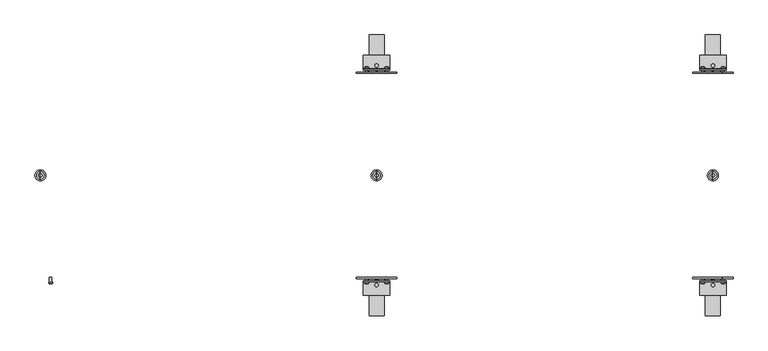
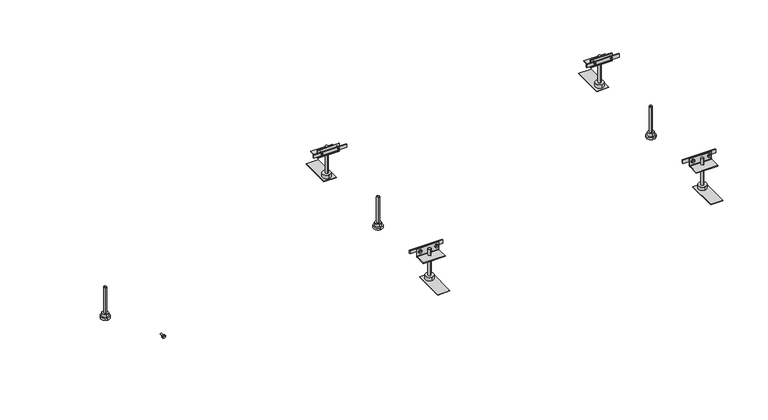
"""IFC4 building model written with IfcOpenShell, lengths in millimetres: proxy geometry."""

from ifc_helpers import new_model, si_unit, point, frame, frame_2d, origin, place, context, project, spatial, polyline, circle_curve, ellipse_curve, trimmed, segment, composite_curve, outline, extrude, source, transform, mapped, element, save
from ifc_brep_helpers import plane_surface, cylinder_surface, revolved_surface, advanced_brep


def electrical_fixtures_2455a1ed(model_context):
    return source(origin(), model_context, "Body", "SolidModel", [
        advanced_brep(
        [(1600.0, 13.0, -85.5), (1600.0, -13.0, -85.5), (1600.0, 0.0, -85.5), (1600.0, 13.0, -79.5), (1600.0, -13.0, -79.5), (1600.0, 9.0, -79.5), (1600.0, -9.0, -79.5), (1600.0, 9.0, -70.5), (1600.0, -9.0, -70.5), (1600.0, 3.954744, -70.5), (1600.0, -3.954744, -70.5), (1600.0, 3.954744, 9.5), (1600.0, -3.954744, 9.5), (1600.0, 0.0, 9.5)],
        [
            (0, 1, circle_curve(frame((1600.0, 0.0, -85.5), z_axis=(0.0, 0.0, -1.0), x_axis=(0.0, -1.0, 0.0)), 13.0)),
            (1, 2),
            (2, 0),
            (1, 0, circle_curve(frame((1600.0, 0.0, -85.5), z_axis=(0.0, 0.0, -1.0), x_axis=(0.0, -1.0, 0.0)), 13.0)),
            (3, 4, circle_curve(frame((1600.0, 0.0, -79.5), z_axis=(0.0, 0.0, -1.0), x_axis=(0.0, -1.0, 0.0)), 13.0)),
            (4, 1),
            (0, 3),
            (4, 3, circle_curve(frame((1600.0, 0.0, -79.5), z_axis=(0.0, 0.0, -1.0), x_axis=(0.0, -1.0, 0.0)), 13.0)),
            (5, 6, circle_curve(frame((1600.0, 0.0, -79.5), z_axis=(0.0, 0.0, -1.0), x_axis=(0.0, -1.0, 0.0)), 9.0)),
            (6, 4),
            (3, 5),
            (6, 5, circle_curve(frame((1600.0, 0.0, -79.5), z_axis=(0.0, 0.0, -1.0), x_axis=(0.0, -1.0, 0.0)), 9.0)),
            (7, 8, circle_curve(frame((1600.0, 0.0, -70.5), z_axis=(0.0, 0.0, -1.0), x_axis=(0.0, -1.0, 0.0)), 9.0)),
            (8, 6),
            (5, 7),
            (8, 7, circle_curve(frame((1600.0, 0.0, -70.5), z_axis=(0.0, 0.0, -1.0), x_axis=(0.0, -1.0, 0.0)), 9.0)),
            (9, 10, circle_curve(frame((1600.0, 0.0, -70.5), z_axis=(0.0, 0.0, -1.0), x_axis=(0.0, -1.0, 0.0)), 3.954744)),
            (10, 8),
            (7, 9),
            (10, 9, circle_curve(frame((1600.0, 0.0, -70.5), z_axis=(0.0, 0.0, -1.0), x_axis=(0.0, -1.0, 0.0)), 3.954744)),
            (11, 12, circle_curve(frame((1600.0, 0.0, 9.5), z_axis=(0.0, 0.0, -1.0), x_axis=(0.0, -1.0, 0.0)), 3.954744)),
            (12, 10),
            (9, 11),
            (12, 11, circle_curve(frame((1600.0, 0.0, 9.5), z_axis=(0.0, 0.0, -1.0), x_axis=(0.0, -1.0, 0.0)), 3.954744)),
            (13, 12),
            (11, 13),
        ],
        [
            plane_surface(frame((1600.0, 0.0, -85.5), z_axis=(0.0, 0.0, -1.0), x_axis=(0.0, -1.0, 0.0))),
            cylinder_surface(frame((1600.0, 0.0, 7.0), z_axis=(0.0, 0.0, 1.0), x_axis=(0.0, -1.0, 0.0)), 13.0),
            plane_surface(frame((1600.0, 0.0, -79.5), z_axis=(0.0, 0.0, 1.0), x_axis=(0.0, -1.0, 0.0))),
            cylinder_surface(frame((1600.0, 0.0, 7.0), z_axis=(0.0, 0.0, 1.0), x_axis=(0.0, -1.0, 0.0)), 9.0),
            plane_surface(frame((1600.0, 0.0, -70.5), z_axis=(0.0, 0.0, 1.0), x_axis=(0.0, -1.0, 0.0))),
            cylinder_surface(frame((1600.0, 0.0, 7.0), z_axis=(0.0, 0.0, 1.0), x_axis=(0.0, -1.0, 0.0)), 3.954744),
            plane_surface(frame((1600.0, 0.0, 9.5), z_axis=(0.0, 0.0, 1.0), x_axis=(0.0, -1.0, 0.0))),
        ],
        [
            (0, [[1, 2, 3]]),
            (0, [[4, -3, -2]]),
            (1, [[5, 6, -1, 7]]),
            (1, [[8, -7, -4, -6]]),
            (2, [[9, 10, -5, 11]]),
            (2, [[12, -11, -8, -10]]),
            (3, [[13, 14, -9, 15]]),
            (3, [[16, -15, -12, -14]]),
            (4, [[17, 18, -13, 19]]),
            (4, [[20, -19, -16, -18]]),
            (5, [[21, 22, -17, 23]]),
            (5, [[24, -23, -20, -22]]),
            (6, [[25, -21, 26]]),
            (6, [[-26, -24, -25]]),
        ],
    ),
        advanced_brep(
        [(1629.0575247, -256.6418922, 2.5), (1619.4769168, -256.6418922, 2.5), (1619.4769168, -254.7, 2.5), (1629.0575247, -254.7, 2.5), (1621.7042517, -254.7, 2.5), (1626.8301898, -254.7, 2.5), (1621.7042517, -242.7, 2.5), (1626.8301898, -242.7, 2.5), (1624.2672208, -242.7, 2.5), (1624.2672208, -258.3479209, 2.5)],
        [
            (0, 1, circle_curve(frame((1624.2672208, -256.6418922, 2.5), z_axis=(0.0, 1.0, 0.0), x_axis=(-1.0, 0.0, 0.0)), 4.790304)),
            (1, 2),
            (2, 3, circle_curve(frame((1624.2672208, -254.7, 2.5), z_axis=(0.0, -1.0, 0.0), x_axis=(-1.0, 0.0, 0.0)), 4.790304)),
            (3, 0),
            (1, 0, circle_curve(frame((1624.2672208, -256.6418922, 2.5), z_axis=(0.0, 1.0, 0.0), x_axis=(-1.0, 0.0, 0.0)), 4.790304)),
            (3, 2, circle_curve(frame((1624.2672208, -254.7, 2.5), z_axis=(0.0, -1.0, 0.0), x_axis=(-1.0, 0.0, 0.0)), 4.790304)),
            (2, 4),
            (4, 5, circle_curve(frame((1624.2672208, -254.7, 2.5), z_axis=(0.0, -1.0, 0.0), x_axis=(-1.0, 0.0, 0.0)), 2.562969)),
            (5, 3),
            (5, 4, circle_curve(frame((1624.2672208, -254.7, 2.5), z_axis=(0.0, -1.0, 0.0), x_axis=(-1.0, 0.0, 0.0)), 2.562969)),
            (4, 6),
            (6, 7, circle_curve(frame((1624.2672208, -242.7, 2.5), z_axis=(0.0, -1.0, 0.0), x_axis=(-1.0, 0.0, 0.0)), 2.562969)),
            (7, 5),
            (7, 6, circle_curve(frame((1624.2672208, -242.7, 2.5), z_axis=(0.0, -1.0, 0.0), x_axis=(-1.0, 0.0, 0.0)), 2.562969)),
            (6, 8),
            (8, 7),
            (9, 1, circle_curve(frame((1624.2353142, -250.8592246, 2.5), z_axis=(0.0, 0.0, -1.0), x_axis=(-1.0, 0.0, 0.0)), 7.4887643)),
            (0, 9, circle_curve(frame((1624.2991274, -250.8592246, 2.5), z_axis=(0.0, 0.0, -1.0), x_axis=(1.0, 0.0, 0.0)), 7.4887643)),
        ],
        [
            cylinder_surface(frame((1624.2672208, -254.2950786, 2.5), z_axis=(0.0, -1.0, 0.0), x_axis=(-1.0, 0.0, 0.0)), 4.790304),
            plane_surface(frame((1624.2672208, -254.7, 2.5), z_axis=(0.0, 1.0, 0.0), x_axis=(-1.0, 0.0, 0.0))),
            cylinder_surface(frame((1624.2672208, -254.2950786, 2.5), z_axis=(0.0, -1.0, 0.0), x_axis=(-1.0, 0.0, 0.0)), 2.562969),
            plane_surface(frame((1624.2672208, -242.7, 2.5), z_axis=(0.0, 1.0, 0.0), x_axis=(-1.0, 0.0, 0.0))),
            revolved_surface(trimmed(ellipse_curve(frame((1624.2353142, -250.8592246, 2.5), z_axis=(0.0, 0.0, 1.0), x_axis=(-1.0, 0.0, 0.0)), 7.4887643, 7.4887643), [point((1619.4769168, -256.6418922, 2.5))], [point((1624.2672208, -258.3479209, 2.5))], True, "CARTESIAN"), (1624.2672208, -254.2950786, 2.5), (0.0, -1.0, 0.0)),
        ],
        [
            (0, [[1, 2, 3, 4]]),
            (0, [[5, -4, 6, -2]]),
            (1, [[-3, 7, 8, 9]]),
            (1, [[-6, -9, 10, -7]]),
            (2, [[-8, 11, 12, 13]]),
            (2, [[-10, -13, 14, -11]]),
            (3, [[-12, 15, 16]]),
            (3, [[-14, -16, -15]]),
            (4, [[17, -1, 18]]),
            (4, [[-18, -5, -17]]),
        ],
    ),
        advanced_brep(
        [(1580.790304, -256.6418922, 2.5), (1571.209696, -256.6418922, 2.5), (1571.209696, -254.7, 2.5), (1580.790304, -254.7, 2.5), (1573.437031, -254.7, 2.5), (1578.562969, -254.7, 2.5), (1573.437031, -242.7, 2.5), (1578.562969, -242.7, 2.5), (1576.0, -242.7, 2.5), (1576.0, -258.3479209, 2.5)],
        [
            (0, 1, circle_curve(frame((1576.0, -256.6418922, 2.5), z_axis=(0.0, 1.0, 0.0), x_axis=(-1.0, 0.0, 0.0)), 4.790304)),
            (1, 2),
            (2, 3, circle_curve(frame((1576.0, -254.7, 2.5), z_axis=(0.0, -1.0, 0.0), x_axis=(-1.0, 0.0, 0.0)), 4.790304)),
            (3, 0),
            (1, 0, circle_curve(frame((1576.0, -256.6418922, 2.5), z_axis=(0.0, 1.0, 0.0), x_axis=(-1.0, 0.0, 0.0)), 4.790304)),
            (3, 2, circle_curve(frame((1576.0, -254.7, 2.5), z_axis=(0.0, -1.0, 0.0), x_axis=(-1.0, 0.0, 0.0)), 4.790304)),
            (2, 4),
            (4, 5, circle_curve(frame((1576.0, -254.7, 2.5), z_axis=(0.0, -1.0, 0.0), x_axis=(-1.0, 0.0, 0.0)), 2.562969)),
            (5, 3),
            (5, 4, circle_curve(frame((1576.0, -254.7, 2.5), z_axis=(0.0, -1.0, 0.0), x_axis=(-1.0, 0.0, 0.0)), 2.562969)),
            (4, 6),
            (6, 7, circle_curve(frame((1576.0, -242.7, 2.5), z_axis=(0.0, -1.0, 0.0), x_axis=(-1.0, 0.0, 0.0)), 2.562969)),
            (7, 5),
            (7, 6, circle_curve(frame((1576.0, -242.7, 2.5), z_axis=(0.0, -1.0, 0.0), x_axis=(-1.0, 0.0, 0.0)), 2.562969)),
            (6, 8),
            (8, 7),
            (9, 1, circle_curve(frame((1575.9680934, -250.8592246, 2.5), z_axis=(0.0, 0.0, -1.0), x_axis=(-1.0, 0.0, 0.0)), 7.4887643)),
            (0, 9, circle_curve(frame((1576.0319066, -250.8592246, 2.5), z_axis=(0.0, 0.0, -1.0), x_axis=(1.0, 0.0, 0.0)), 7.4887643)),
        ],
        [
            cylinder_surface(frame((1576.0, -254.2950786, 2.5), z_axis=(0.0, -1.0, 0.0), x_axis=(-1.0, 0.0, 0.0)), 4.790304),
            plane_surface(frame((1576.0, -254.7, 2.5), z_axis=(0.0, 1.0, 0.0), x_axis=(-1.0, 0.0, 0.0))),
            cylinder_surface(frame((1576.0, -254.2950786, 2.5), z_axis=(0.0, -1.0, 0.0), x_axis=(-1.0, 0.0, 0.0)), 2.562969),
            plane_surface(frame((1576.0, -242.7, 2.5), z_axis=(0.0, 1.0, 0.0), x_axis=(-1.0, 0.0, 0.0))),
            revolved_surface(trimmed(ellipse_curve(frame((1575.9680934, -250.8592246, 2.5), z_axis=(0.0, 0.0, 1.0), x_axis=(-1.0, 0.0, 0.0)), 7.4887643, 7.4887643), [point((1571.209696, -256.6418922, 2.5))], [point((1576.0, -258.3479209, 2.5))], True, "CARTESIAN"), (1576.0, -254.2950786, 2.5), (0.0, -1.0, 0.0)),
        ],
        [
            (0, [[1, 2, 3, 4]]),
            (0, [[5, -4, 6, -2]]),
            (1, [[-3, 7, 8, 9]]),
            (1, [[-6, -9, 10, -7]]),
            (2, [[-8, 11, 12, 13]]),
            (2, [[-10, -13, 14, -11]]),
            (3, [[-12, 15, 16]]),
            (3, [[-14, -16, -15]]),
            (4, [[17, -1, 18]]),
            (4, [[-18, -5, -17]]),
        ],
    ),
        advanced_brep(
        [(1629.0575247, 254.7, 2.5), (1619.4769168, 254.7, 2.5), (1619.4769168, 256.6418922, 2.5), (1629.0575247, 256.6418922, 2.5), (1626.8301898, 254.7, 2.5), (1621.7042517, 254.7, 2.5), (1626.8301898, 242.7, 2.5), (1621.7042517, 242.7, 2.5), (1624.2672208, 242.7, 2.5), (1624.2672208, 258.3479209, 2.5)],
        [
            (0, 1, circle_curve(frame((1624.2672208, 254.7, 2.5), z_axis=(0.0, 1.0, 0.0), x_axis=(-1.0, 0.0, 0.0)), 4.790304)),
            (1, 2),
            (2, 3, circle_curve(frame((1624.2672208, 256.6418922, 2.5), z_axis=(0.0, -1.0, 0.0), x_axis=(-1.0, 0.0, 0.0)), 4.790304)),
            (3, 0),
            (1, 0, circle_curve(frame((1624.2672208, 254.7, 2.5), z_axis=(0.0, 1.0, 0.0), x_axis=(-1.0, 0.0, 0.0)), 4.790304)),
            (3, 2, circle_curve(frame((1624.2672208, 256.6418922, 2.5), z_axis=(0.0, -1.0, 0.0), x_axis=(-1.0, 0.0, 0.0)), 4.790304)),
            (4, 5, circle_curve(frame((1624.2672208, 254.7, 2.5), z_axis=(0.0, 1.0, 0.0), x_axis=(-1.0, 0.0, 0.0)), 2.562969)),
            (5, 1),
            (0, 4),
            (5, 4, circle_curve(frame((1624.2672208, 254.7, 2.5), z_axis=(0.0, 1.0, 0.0), x_axis=(-1.0, 0.0, 0.0)), 2.562969)),
            (6, 7, circle_curve(frame((1624.2672208, 242.7, 2.5), z_axis=(0.0, 1.0, 0.0), x_axis=(-1.0, 0.0, 0.0)), 2.562969)),
            (7, 5),
            (4, 6),
            (7, 6, circle_curve(frame((1624.2672208, 242.7, 2.5), z_axis=(0.0, 1.0, 0.0), x_axis=(-1.0, 0.0, 0.0)), 2.562969)),
            (8, 7),
            (6, 8),
            (2, 9, circle_curve(frame((1624.2353142, 250.8592246, 2.5), z_axis=(0.0, 0.0, -1.0), x_axis=(-1.0, 0.0, 0.0)), 7.4887643)),
            (9, 3, circle_curve(frame((1624.2991274, 250.8592246, 2.5), z_axis=(0.0, 0.0, -1.0), x_axis=(1.0, 0.0, 0.0)), 7.4887643)),
        ],
        [
            cylinder_surface(frame((1624.2672208, 254.2950786, 2.5), z_axis=(0.0, -1.0, 0.0), x_axis=(-1.0, 0.0, 0.0)), 4.790304),
            plane_surface(frame((1624.2672208, 254.7, 2.5), z_axis=(0.0, -1.0, 0.0), x_axis=(-1.0, 0.0, 0.0))),
            cylinder_surface(frame((1624.2672208, 254.2950786, 2.5), z_axis=(0.0, -1.0, 0.0), x_axis=(-1.0, 0.0, 0.0)), 2.562969),
            plane_surface(frame((1624.2672208, 242.7, 2.5), z_axis=(0.0, -1.0, 0.0), x_axis=(-1.0, 0.0, 0.0))),
            revolved_surface(trimmed(ellipse_curve(frame((1624.2353142, 250.8592246, 2.5), z_axis=(0.0, 0.0, 1.0), x_axis=(-1.0, 0.0, 0.0)), 7.4887643, 7.4887643), [point((1624.2672208, 258.3479209, 2.5))], [point((1619.4769168, 256.6418922, 2.5))], True, "CARTESIAN"), (1624.2672208, 254.2950786, 2.5), (0.0, -1.0, 0.0)),
        ],
        [
            (0, [[1, 2, 3, 4]]),
            (0, [[5, -4, 6, -2]]),
            (1, [[7, 8, -1, 9]]),
            (1, [[10, -9, -5, -8]]),
            (2, [[11, 12, -7, 13]]),
            (2, [[14, -13, -10, -12]]),
            (3, [[15, -11, 16]]),
            (3, [[-16, -14, -15]]),
            (4, [[-3, 17, 18]]),
            (4, [[-6, -18, -17]]),
        ],
    ),
        advanced_brep(
        [(1580.790304, 254.7, 2.5), (1571.209696, 254.7, 2.5), (1571.209696, 256.6418922, 2.5), (1580.790304, 256.6418922, 2.5), (1578.562969, 254.7, 2.5), (1573.437031, 254.7, 2.5), (1578.562969, 242.7, 2.5), (1573.437031, 242.7, 2.5), (1576.0, 242.7, 2.5), (1576.0, 258.3479209, 2.5)],
        [
            (0, 1, circle_curve(frame((1576.0, 254.7, 2.5), z_axis=(0.0, 1.0, 0.0), x_axis=(-1.0, 0.0, 0.0)), 4.790304)),
            (1, 2),
            (2, 3, circle_curve(frame((1576.0, 256.6418922, 2.5), z_axis=(0.0, -1.0, 0.0), x_axis=(-1.0, 0.0, 0.0)), 4.790304)),
            (3, 0),
            (1, 0, circle_curve(frame((1576.0, 254.7, 2.5), z_axis=(0.0, 1.0, 0.0), x_axis=(-1.0, 0.0, 0.0)), 4.790304)),
            (3, 2, circle_curve(frame((1576.0, 256.6418922, 2.5), z_axis=(0.0, -1.0, 0.0), x_axis=(-1.0, 0.0, 0.0)), 4.790304)),
            (4, 5, circle_curve(frame((1576.0, 254.7, 2.5), z_axis=(0.0, 1.0, 0.0), x_axis=(-1.0, 0.0, 0.0)), 2.562969)),
            (5, 1),
            (0, 4),
            (5, 4, circle_curve(frame((1576.0, 254.7, 2.5), z_axis=(0.0, 1.0, 0.0), x_axis=(-1.0, 0.0, 0.0)), 2.562969)),
            (6, 7, circle_curve(frame((1576.0, 242.7, 2.5), z_axis=(0.0, 1.0, 0.0), x_axis=(-1.0, 0.0, 0.0)), 2.562969)),
            (7, 5),
            (4, 6),
            (7, 6, circle_curve(frame((1576.0, 242.7, 2.5), z_axis=(0.0, 1.0, 0.0), x_axis=(-1.0, 0.0, 0.0)), 2.562969)),
            (8, 7),
            (6, 8),
            (2, 9, circle_curve(frame((1575.9680934, 250.8592246, 2.5), z_axis=(0.0, 0.0, -1.0), x_axis=(-1.0, 0.0, 0.0)), 7.4887643)),
            (9, 3, circle_curve(frame((1576.0319066, 250.8592246, 2.5), z_axis=(0.0, 0.0, -1.0), x_axis=(1.0, 0.0, 0.0)), 7.4887643)),
        ],
        [
            cylinder_surface(frame((1576.0, 254.2950786, 2.5), z_axis=(0.0, -1.0, 0.0), x_axis=(-1.0, 0.0, 0.0)), 4.790304),
            plane_surface(frame((1576.0, 254.7, 2.5), z_axis=(0.0, -1.0, 0.0), x_axis=(-1.0, 0.0, 0.0))),
            cylinder_surface(frame((1576.0, 254.2950786, 2.5), z_axis=(0.0, -1.0, 0.0), x_axis=(-1.0, 0.0, 0.0)), 2.562969),
            plane_surface(frame((1576.0, 242.7, 2.5), z_axis=(0.0, -1.0, 0.0), x_axis=(-1.0, 0.0, 0.0))),
            revolved_surface(trimmed(ellipse_curve(frame((1575.9680934, 250.8592246, 2.5), z_axis=(0.0, 0.0, 1.0), x_axis=(-1.0, 0.0, 0.0)), 7.4887643, 7.4887643), [point((1576.0, 258.3479209, 2.5))], [point((1571.209696, 256.6418922, 2.5))], True, "CARTESIAN"), (1576.0, 254.2950786, 2.5), (0.0, -1.0, 0.0)),
        ],
        [
            (0, [[1, 2, 3, 4]]),
            (0, [[5, -4, 6, -2]]),
            (1, [[7, 8, -1, 9]]),
            (1, [[10, -9, -5, -8]]),
            (2, [[11, 12, -7, 13]]),
            (2, [[14, -13, -10, -12]]),
            (3, [[15, -11, 16]]),
            (3, [[-16, -14, -15]]),
            (4, [[-3, 17, 18]]),
            (4, [[-6, -18, -17]]),
        ],
    ),
        extrude(outline(polyline([(1552.0, 242.7), (1552.0, 245.7), (1648.0, 245.7), (1648.0, 242.7), (1552.0, 242.7)])), frame((0.0, 0.0, -2.5), z_axis=(0.0, 0.0, 1.0), x_axis=(1.0, 0.0, 0.0)), (0.0, 0.0, 1.0), 10.0),
        extrude(outline(polyline([(1552.0, -245.7), (1552.0, -242.7), (1648.0, -242.7), (1648.0, -245.7), (1552.0, -245.7)])), frame((0.0, 0.0, -2.5), z_axis=(0.0, 0.0, 1.0), x_axis=(1.0, 0.0, 0.0)), (0.0, 0.0, 1.0), 10.0),
        extrude(outline(composite_curve([segment(polyline([(250.6, 10.9), (252.6, 10.9), (252.6, -11.1088822)]), True, "CONTINUOUS"), segment(trimmed(circle_curve(frame_2d((253.5911178, -11.1088822)), 0.9911178), [point((252.6, -11.1088822))], [point((253.5911178, -12.1))], True, "CARTESIAN"), True, "CONTINUOUS"), segment(polyline([(253.5911178, -12.1), (285.6, -12.1), (285.6, -14.1), (253.6002521, -14.1)]), True, "CONTINUOUS"), segment(trimmed(circle_curve(frame_2d((253.6002521, -11.0997479)), 3.0002521), [point((253.6002521, -14.1))], [point((250.6, -11.0997479))], False, "CARTESIAN"), True, "CONTINUOUS"), segment(polyline([(250.6, -11.0997479), (250.6, 10.9)]), True, "CONTINUOUS")], self_intersect=False)), frame((1568.3, 0.0, 0.0), z_axis=(1.0, 0.0, 0.0), x_axis=(0.0, 1.0, 0.0)), (0.0, 0.0, 1.0), 63.4),
        extrude(outline(composite_curve([segment(polyline([(-250.6, 10.9), (-250.6, -11.0997479)]), True, "CONTINUOUS"), segment(trimmed(circle_curve(frame_2d((-253.6002521, -11.0997479)), 3.0002521), [point((-250.6, -11.0997479))], [point((-253.6002521, -14.1))], False, "CARTESIAN"), True, "CONTINUOUS"), segment(polyline([(-253.6002521, -14.1), (-285.6, -14.1), (-285.6, -12.1), (-253.5911178, -12.1)]), True, "CONTINUOUS"), segment(trimmed(circle_curve(frame_2d((-253.5911178, -11.1088822)), 0.9911178), [point((-253.5911178, -12.1))], [point((-252.6, -11.1088822))], True, "CARTESIAN"), True, "CONTINUOUS"), segment(polyline([(-252.6, -11.1088822), (-252.6, 10.9), (-250.6, 10.9)]), True, "CONTINUOUS")], self_intersect=False)), frame((1568.3, 0.0, 0.0), z_axis=(1.0, 0.0, 0.0), x_axis=(0.0, 1.0, 0.0)), (0.0, 0.0, 1.0), 63.4),
        extrude(outline(composite_curve([segment(trimmed(circle_curve(frame_2d((1600.0, 261.1712378)), 3.9923162), [point((1600.0, 265.163554))], [point((1600.0, 257.1789216))], False, "CARTESIAN"), True, "CONTINUOUS"), segment(trimmed(circle_curve(frame_2d((1600.0, 261.1712378)), 3.9923162), [point((1600.0, 257.1789216))], [point((1600.0, 265.163554))], False, "CARTESIAN"), True, "CONTINUOUS")], self_intersect=False)), frame((0.0, 0.0, -74.8), z_axis=(0.0, 0.0, 1.0), x_axis=(1.0, 0.0, 0.0)), (0.0, 0.0, 1.0), 81.8),
        extrude(outline(composite_curve([segment(trimmed(circle_curve(frame_2d((1600.0, -261.0787011)), 3.991847), [point((1600.0, -257.0868541))], [point((1600.0, -265.0705482))], False, "CARTESIAN"), True, "CONTINUOUS"), segment(trimmed(circle_curve(frame_2d((1600.0, -261.0787011)), 3.991847), [point((1600.0, -265.0705482))], [point((1600.0, -257.0868541))], False, "CARTESIAN"), True, "CONTINUOUS")], self_intersect=False)), frame((0.0, 0.0, -74.8), z_axis=(0.0, 0.0, 1.0), x_axis=(1.0, 0.0, 0.0)), (0.0, 0.0, 1.0), 81.8),
        extrude(outline(composite_curve([segment(trimmed(circle_curve(frame_2d((1600.0, 261.1652527)), 12.0), [point((1600.0, 273.1652527))], [point((1600.0, 249.1652527))], False, "CARTESIAN"), True, "CONTINUOUS"), segment(trimmed(circle_curve(frame_2d((1600.0, 261.1652527)), 12.0), [point((1600.0, 249.1652527))], [point((1600.0, 273.1652527))], False, "CARTESIAN"), True, "CONTINUOUS")], self_intersect=False)), frame((0.0, 0.0, -85.5), z_axis=(0.0, 0.0, 1.0), x_axis=(1.0, 0.0, 0.0)), (0.0, 0.0, 1.0), 10.7),
        extrude(outline(composite_curve([segment(trimmed(circle_curve(frame_2d((1600.0, -261.112037)), 12.0), [point((1600.0, -249.112037))], [point((1600.0, -273.112037))], False, "CARTESIAN"), True, "CONTINUOUS"), segment(trimmed(circle_curve(frame_2d((1600.0, -261.112037)), 12.0), [point((1600.0, -273.112037))], [point((1600.0, -249.112037))], False, "CARTESIAN"), True, "CONTINUOUS")], self_intersect=False)), frame((0.0, 0.0, -85.5), z_axis=(0.0, 0.0, 1.0), x_axis=(1.0, 0.0, 0.0)), (0.0, 0.0, 1.0), 10.7),
        extrude(outline(polyline([(1618.0, 244.1), (1582.0, 244.1), (1582.0, 334.1), (1618.0, 334.1), (1618.0, 244.1)])), frame((0.0, 0.0, -87.0), z_axis=(0.0, 0.0, 1.0), x_axis=(1.0, 0.0, 0.0)), (0.0, 0.0, 1.0), 1.5),
        extrude(outline(polyline([(1618.0, -334.1), (1582.0, -334.1), (1582.0, -244.1), (1618.0, -244.1), (1618.0, -334.1)])), frame((0.0, 0.0, -87.0), z_axis=(0.0, 0.0, 1.0), x_axis=(1.0, 0.0, 0.0)), (0.0, 0.0, 1.0), 1.5),
        advanced_brep(
        [(800.0, 13.0, -85.5), (800.0, -13.0, -85.5), (800.0, 0.0, -85.5), (800.0, 13.0, -79.5), (800.0, -13.0, -79.5), (800.0, 9.0, -79.5), (800.0, -9.0, -79.5), (800.0, 9.0, -70.5), (800.0, -9.0, -70.5), (800.0, 3.954744, -70.5), (800.0, -3.954744, -70.5), (800.0, 3.954744, 9.5), (800.0, -3.954744, 9.5), (800.0, 0.0, 9.5)],
        [
            (0, 1, circle_curve(frame((800.0, 0.0, -85.5), z_axis=(0.0, 0.0, -1.0), x_axis=(0.0, -1.0, 0.0)), 13.0)),
            (1, 2),
            (2, 0),
            (1, 0, circle_curve(frame((800.0, 0.0, -85.5), z_axis=(0.0, 0.0, -1.0), x_axis=(0.0, -1.0, 0.0)), 13.0)),
            (3, 4, circle_curve(frame((800.0, 0.0, -79.5), z_axis=(0.0, 0.0, -1.0), x_axis=(0.0, -1.0, 0.0)), 13.0)),
            (4, 1),
            (0, 3),
            (4, 3, circle_curve(frame((800.0, 0.0, -79.5), z_axis=(0.0, 0.0, -1.0), x_axis=(0.0, -1.0, 0.0)), 13.0)),
            (5, 6, circle_curve(frame((800.0, 0.0, -79.5), z_axis=(0.0, 0.0, -1.0), x_axis=(0.0, -1.0, 0.0)), 9.0)),
            (6, 4),
            (3, 5),
            (6, 5, circle_curve(frame((800.0, 0.0, -79.5), z_axis=(0.0, 0.0, -1.0), x_axis=(0.0, -1.0, 0.0)), 9.0)),
            (7, 8, circle_curve(frame((800.0, 0.0, -70.5), z_axis=(0.0, 0.0, -1.0), x_axis=(0.0, -1.0, 0.0)), 9.0)),
            (8, 6),
            (5, 7),
            (8, 7, circle_curve(frame((800.0, 0.0, -70.5), z_axis=(0.0, 0.0, -1.0), x_axis=(0.0, -1.0, 0.0)), 9.0)),
            (9, 10, circle_curve(frame((800.0, 0.0, -70.5), z_axis=(0.0, 0.0, -1.0), x_axis=(0.0, -1.0, 0.0)), 3.954744)),
            (10, 8),
            (7, 9),
            (10, 9, circle_curve(frame((800.0, 0.0, -70.5), z_axis=(0.0, 0.0, -1.0), x_axis=(0.0, -1.0, 0.0)), 3.954744)),
            (11, 12, circle_curve(frame((800.0, 0.0, 9.5), z_axis=(0.0, 0.0, -1.0), x_axis=(0.0, -1.0, 0.0)), 3.954744)),
            (12, 10),
            (9, 11),
            (12, 11, circle_curve(frame((800.0, 0.0, 9.5), z_axis=(0.0, 0.0, -1.0), x_axis=(0.0, -1.0, 0.0)), 3.954744)),
            (13, 12),
            (11, 13),
        ],
        [
            plane_surface(frame((800.0, 0.0, -85.5), z_axis=(0.0, 0.0, -1.0), x_axis=(0.0, -1.0, 0.0))),
            cylinder_surface(frame((800.0, 0.0, 7.0), z_axis=(0.0, 0.0, 1.0), x_axis=(0.0, -1.0, 0.0)), 13.0),
            plane_surface(frame((800.0, 0.0, -79.5), z_axis=(0.0, 0.0, 1.0), x_axis=(0.0, -1.0, 0.0))),
            cylinder_surface(frame((800.0, 0.0, 7.0), z_axis=(0.0, 0.0, 1.0), x_axis=(0.0, -1.0, 0.0)), 9.0),
            plane_surface(frame((800.0, 0.0, -70.5), z_axis=(0.0, 0.0, 1.0), x_axis=(0.0, -1.0, 0.0))),
            cylinder_surface(frame((800.0, 0.0, 7.0), z_axis=(0.0, 0.0, 1.0), x_axis=(0.0, -1.0, 0.0)), 3.954744),
            plane_surface(frame((800.0, 0.0, 9.5), z_axis=(0.0, 0.0, 1.0), x_axis=(0.0, -1.0, 0.0))),
        ],
        [
            (0, [[1, 2, 3]]),
            (0, [[4, -3, -2]]),
            (1, [[5, 6, -1, 7]]),
            (1, [[8, -7, -4, -6]]),
            (2, [[9, 10, -5, 11]]),
            (2, [[12, -11, -8, -10]]),
            (3, [[13, 14, -9, 15]]),
            (3, [[16, -15, -12, -14]]),
            (4, [[17, 18, -13, 19]]),
            (4, [[20, -19, -16, -18]]),
            (5, [[21, 22, -17, 23]]),
            (5, [[24, -23, -20, -22]]),
            (6, [[25, -21, 26]]),
            (6, [[-26, -24, -25]]),
        ],
    ),
        advanced_brep(
        [(829.0575247, -256.6418922, 2.5), (819.4769168, -256.6418922, 2.5), (819.4769168, -254.7, 2.5), (829.0575247, -254.7, 2.5), (821.7042517, -254.7, 2.5), (826.8301898, -254.7, 2.5), (821.7042517, -242.7, 2.5), (826.8301898, -242.7, 2.5), (824.2672208, -242.7, 2.5), (824.2672208, -258.3479209, 2.5)],
        [
            (0, 1, circle_curve(frame((824.2672208, -256.6418922, 2.5), z_axis=(0.0, 1.0, 0.0), x_axis=(-1.0, 0.0, 0.0)), 4.790304)),
            (1, 2),
            (2, 3, circle_curve(frame((824.2672208, -254.7, 2.5), z_axis=(0.0, -1.0, 0.0), x_axis=(-1.0, 0.0, 0.0)), 4.790304)),
            (3, 0),
            (1, 0, circle_curve(frame((824.2672208, -256.6418922, 2.5), z_axis=(0.0, 1.0, 0.0), x_axis=(-1.0, 0.0, 0.0)), 4.790304)),
            (3, 2, circle_curve(frame((824.2672208, -254.7, 2.5), z_axis=(0.0, -1.0, 0.0), x_axis=(-1.0, 0.0, 0.0)), 4.790304)),
            (2, 4),
            (4, 5, circle_curve(frame((824.2672208, -254.7, 2.5), z_axis=(0.0, -1.0, 0.0), x_axis=(-1.0, 0.0, 0.0)), 2.562969)),
            (5, 3),
            (5, 4, circle_curve(frame((824.2672208, -254.7, 2.5), z_axis=(0.0, -1.0, 0.0), x_axis=(-1.0, 0.0, 0.0)), 2.562969)),
            (4, 6),
            (6, 7, circle_curve(frame((824.2672208, -242.7, 2.5), z_axis=(0.0, -1.0, 0.0), x_axis=(-1.0, 0.0, 0.0)), 2.562969)),
            (7, 5),
            (7, 6, circle_curve(frame((824.2672208, -242.7, 2.5), z_axis=(0.0, -1.0, 0.0), x_axis=(-1.0, 0.0, 0.0)), 2.562969)),
            (6, 8),
            (8, 7),
            (9, 1, circle_curve(frame((824.2353142, -250.8592246, 2.5), z_axis=(0.0, 0.0, -1.0), x_axis=(-1.0, 0.0, 0.0)), 7.4887643)),
            (0, 9, circle_curve(frame((824.2991274, -250.8592246, 2.5), z_axis=(0.0, 0.0, -1.0), x_axis=(1.0, 0.0, 0.0)), 7.4887643)),
        ],
        [
            cylinder_surface(frame((824.2672208, -254.2950786, 2.5), z_axis=(0.0, -1.0, 0.0), x_axis=(-1.0, 0.0, 0.0)), 4.790304),
            plane_surface(frame((824.2672208, -254.7, 2.5), z_axis=(0.0, 1.0, 0.0), x_axis=(-1.0, 0.0, 0.0))),
            cylinder_surface(frame((824.2672208, -254.2950786, 2.5), z_axis=(0.0, -1.0, 0.0), x_axis=(-1.0, 0.0, 0.0)), 2.562969),
            plane_surface(frame((824.2672208, -242.7, 2.5), z_axis=(0.0, 1.0, 0.0), x_axis=(-1.0, 0.0, 0.0))),
            revolved_surface(trimmed(ellipse_curve(frame((824.2353142, -250.8592246, 2.5), z_axis=(0.0, 0.0, 1.0), x_axis=(-1.0, 0.0, 0.0)), 7.4887643, 7.4887643), [point((819.4769168, -256.6418922, 2.5))], [point((824.2672208, -258.3479209, 2.5))], True, "CARTESIAN"), (824.2672208, -254.2950786, 2.5), (0.0, -1.0, 0.0)),
        ],
        [
            (0, [[1, 2, 3, 4]]),
            (0, [[5, -4, 6, -2]]),
            (1, [[-3, 7, 8, 9]]),
            (1, [[-6, -9, 10, -7]]),
            (2, [[-8, 11, 12, 13]]),
            (2, [[-10, -13, 14, -11]]),
            (3, [[-12, 15, 16]]),
            (3, [[-14, -16, -15]]),
            (4, [[17, -1, 18]]),
            (4, [[-18, -5, -17]]),
        ],
    ),
        advanced_brep(
        [(780.790304, -256.6418922, 2.5), (771.209696, -256.6418922, 2.5), (771.209696, -254.7, 2.5), (780.790304, -254.7, 2.5), (773.437031, -254.7, 2.5), (778.562969, -254.7, 2.5), (773.437031, -242.7, 2.5), (778.562969, -242.7, 2.5), (776.0, -242.7, 2.5), (776.0, -258.3479209, 2.5)],
        [
            (0, 1, circle_curve(frame((776.0, -256.6418922, 2.5), z_axis=(0.0, 1.0, 0.0), x_axis=(-1.0, 0.0, 0.0)), 4.790304)),
            (1, 2),
            (2, 3, circle_curve(frame((776.0, -254.7, 2.5), z_axis=(0.0, -1.0, 0.0), x_axis=(-1.0, 0.0, 0.0)), 4.790304)),
            (3, 0),
            (1, 0, circle_curve(frame((776.0, -256.6418922, 2.5), z_axis=(0.0, 1.0, 0.0), x_axis=(-1.0, 0.0, 0.0)), 4.790304)),
            (3, 2, circle_curve(frame((776.0, -254.7, 2.5), z_axis=(0.0, -1.0, 0.0), x_axis=(-1.0, 0.0, 0.0)), 4.790304)),
            (2, 4),
            (4, 5, circle_curve(frame((776.0, -254.7, 2.5), z_axis=(0.0, -1.0, 0.0), x_axis=(-1.0, 0.0, 0.0)), 2.562969)),
            (5, 3),
            (5, 4, circle_curve(frame((776.0, -254.7, 2.5), z_axis=(0.0, -1.0, 0.0), x_axis=(-1.0, 0.0, 0.0)), 2.562969)),
            (4, 6),
            (6, 7, circle_curve(frame((776.0, -242.7, 2.5), z_axis=(0.0, -1.0, 0.0), x_axis=(-1.0, 0.0, 0.0)), 2.562969)),
            (7, 5),
            (7, 6, circle_curve(frame((776.0, -242.7, 2.5), z_axis=(0.0, -1.0, 0.0), x_axis=(-1.0, 0.0, 0.0)), 2.562969)),
            (6, 8),
            (8, 7),
            (9, 1, circle_curve(frame((775.9680934, -250.8592246, 2.5), z_axis=(0.0, 0.0, -1.0), x_axis=(-1.0, 0.0, 0.0)), 7.4887643)),
            (0, 9, circle_curve(frame((776.0319066, -250.8592246, 2.5), z_axis=(0.0, 0.0, -1.0), x_axis=(1.0, 0.0, 0.0)), 7.4887643)),
        ],
        [
            cylinder_surface(frame((776.0, -254.2950786, 2.5), z_axis=(0.0, -1.0, 0.0), x_axis=(-1.0, 0.0, 0.0)), 4.790304),
            plane_surface(frame((776.0, -254.7, 2.5), z_axis=(0.0, 1.0, 0.0), x_axis=(-1.0, 0.0, 0.0))),
            cylinder_surface(frame((776.0, -254.2950786, 2.5), z_axis=(0.0, -1.0, 0.0), x_axis=(-1.0, 0.0, 0.0)), 2.562969),
            plane_surface(frame((776.0, -242.7, 2.5), z_axis=(0.0, 1.0, 0.0), x_axis=(-1.0, 0.0, 0.0))),
            revolved_surface(trimmed(ellipse_curve(frame((775.9680934, -250.8592246, 2.5), z_axis=(0.0, 0.0, 1.0), x_axis=(-1.0, 0.0, 0.0)), 7.4887643, 7.4887643), [point((771.209696, -256.6418922, 2.5))], [point((776.0, -258.3479209, 2.5))], True, "CARTESIAN"), (776.0, -254.2950786, 2.5), (0.0, -1.0, 0.0)),
        ],
        [
            (0, [[1, 2, 3, 4]]),
            (0, [[5, -4, 6, -2]]),
            (1, [[-3, 7, 8, 9]]),
            (1, [[-6, -9, 10, -7]]),
            (2, [[-8, 11, 12, 13]]),
            (2, [[-10, -13, 14, -11]]),
            (3, [[-12, 15, 16]]),
            (3, [[-14, -16, -15]]),
            (4, [[17, -1, 18]]),
            (4, [[-18, -5, -17]]),
        ],
    ),
        advanced_brep(
        [(829.0575247, 254.7, 2.5), (819.4769168, 254.7, 2.5), (819.4769168, 256.6418922, 2.5), (829.0575247, 256.6418922, 2.5), (826.8301898, 254.7, 2.5), (821.7042517, 254.7, 2.5), (826.8301898, 242.7, 2.5), (821.7042517, 242.7, 2.5), (824.2672208, 242.7, 2.5), (824.2672208, 258.3479209, 2.5)],
        [
            (0, 1, circle_curve(frame((824.2672208, 254.7, 2.5), z_axis=(0.0, 1.0, 0.0), x_axis=(-1.0, 0.0, 0.0)), 4.790304)),
            (1, 2),
            (2, 3, circle_curve(frame((824.2672208, 256.6418922, 2.5), z_axis=(0.0, -1.0, 0.0), x_axis=(-1.0, 0.0, 0.0)), 4.790304)),
            (3, 0),
            (1, 0, circle_curve(frame((824.2672208, 254.7, 2.5), z_axis=(0.0, 1.0, 0.0), x_axis=(-1.0, 0.0, 0.0)), 4.790304)),
            (3, 2, circle_curve(frame((824.2672208, 256.6418922, 2.5), z_axis=(0.0, -1.0, 0.0), x_axis=(-1.0, 0.0, 0.0)), 4.790304)),
            (4, 5, circle_curve(frame((824.2672208, 254.7, 2.5), z_axis=(0.0, 1.0, 0.0), x_axis=(-1.0, 0.0, 0.0)), 2.562969)),
            (5, 1),
            (0, 4),
            (5, 4, circle_curve(frame((824.2672208, 254.7, 2.5), z_axis=(0.0, 1.0, 0.0), x_axis=(-1.0, 0.0, 0.0)), 2.562969)),
            (6, 7, circle_curve(frame((824.2672208, 242.7, 2.5), z_axis=(0.0, 1.0, 0.0), x_axis=(-1.0, 0.0, 0.0)), 2.562969)),
            (7, 5),
            (4, 6),
            (7, 6, circle_curve(frame((824.2672208, 242.7, 2.5), z_axis=(0.0, 1.0, 0.0), x_axis=(-1.0, 0.0, 0.0)), 2.562969)),
            (8, 7),
            (6, 8),
            (2, 9, circle_curve(frame((824.2353142, 250.8592246, 2.5), z_axis=(0.0, 0.0, -1.0), x_axis=(-1.0, 0.0, 0.0)), 7.4887643)),
            (9, 3, circle_curve(frame((824.2991274, 250.8592246, 2.5), z_axis=(0.0, 0.0, -1.0), x_axis=(1.0, 0.0, 0.0)), 7.4887643)),
        ],
        [
            cylinder_surface(frame((824.2672208, 254.2950786, 2.5), z_axis=(0.0, -1.0, 0.0), x_axis=(-1.0, 0.0, 0.0)), 4.790304),
            plane_surface(frame((824.2672208, 254.7, 2.5), z_axis=(0.0, -1.0, 0.0), x_axis=(-1.0, 0.0, 0.0))),
            cylinder_surface(frame((824.2672208, 254.2950786, 2.5), z_axis=(0.0, -1.0, 0.0), x_axis=(-1.0, 0.0, 0.0)), 2.562969),
            plane_surface(frame((824.2672208, 242.7, 2.5), z_axis=(0.0, -1.0, 0.0), x_axis=(-1.0, 0.0, 0.0))),
            revolved_surface(trimmed(ellipse_curve(frame((824.2353142, 250.8592246, 2.5), z_axis=(0.0, 0.0, 1.0), x_axis=(-1.0, 0.0, 0.0)), 7.4887643, 7.4887643), [point((824.2672208, 258.3479209, 2.5))], [point((819.4769168, 256.6418922, 2.5))], True, "CARTESIAN"), (824.2672208, 254.2950786, 2.5), (0.0, -1.0, 0.0)),
        ],
        [
            (0, [[1, 2, 3, 4]]),
            (0, [[5, -4, 6, -2]]),
            (1, [[7, 8, -1, 9]]),
            (1, [[10, -9, -5, -8]]),
            (2, [[11, 12, -7, 13]]),
            (2, [[14, -13, -10, -12]]),
            (3, [[15, -11, 16]]),
            (3, [[-16, -14, -15]]),
            (4, [[-3, 17, 18]]),
            (4, [[-6, -18, -17]]),
        ],
    ),
        advanced_brep(
        [(780.790304, 254.7, 2.5), (771.209696, 254.7, 2.5), (771.209696, 256.6418922, 2.5), (780.790304, 256.6418922, 2.5), (778.562969, 254.7, 2.5), (773.437031, 254.7, 2.5), (778.562969, 242.7, 2.5), (773.437031, 242.7, 2.5), (776.0, 242.7, 2.5), (776.0, 258.3479209, 2.5)],
        [
            (0, 1, circle_curve(frame((776.0, 254.7, 2.5), z_axis=(0.0, 1.0, 0.0), x_axis=(-1.0, 0.0, 0.0)), 4.790304)),
            (1, 2),
            (2, 3, circle_curve(frame((776.0, 256.6418922, 2.5), z_axis=(0.0, -1.0, 0.0), x_axis=(-1.0, 0.0, 0.0)), 4.790304)),
            (3, 0),
            (1, 0, circle_curve(frame((776.0, 254.7, 2.5), z_axis=(0.0, 1.0, 0.0), x_axis=(-1.0, 0.0, 0.0)), 4.790304)),
            (3, 2, circle_curve(frame((776.0, 256.6418922, 2.5), z_axis=(0.0, -1.0, 0.0), x_axis=(-1.0, 0.0, 0.0)), 4.790304)),
            (4, 5, circle_curve(frame((776.0, 254.7, 2.5), z_axis=(0.0, 1.0, 0.0), x_axis=(-1.0, 0.0, 0.0)), 2.562969)),
            (5, 1),
            (0, 4),
            (5, 4, circle_curve(frame((776.0, 254.7, 2.5), z_axis=(0.0, 1.0, 0.0), x_axis=(-1.0, 0.0, 0.0)), 2.562969)),
            (6, 7, circle_curve(frame((776.0, 242.7, 2.5), z_axis=(0.0, 1.0, 0.0), x_axis=(-1.0, 0.0, 0.0)), 2.562969)),
            (7, 5),
            (4, 6),
            (7, 6, circle_curve(frame((776.0, 242.7, 2.5), z_axis=(0.0, 1.0, 0.0), x_axis=(-1.0, 0.0, 0.0)), 2.562969)),
            (8, 7),
            (6, 8),
            (2, 9, circle_curve(frame((775.9680934, 250.8592246, 2.5), z_axis=(0.0, 0.0, -1.0), x_axis=(-1.0, 0.0, 0.0)), 7.4887643)),
            (9, 3, circle_curve(frame((776.0319066, 250.8592246, 2.5), z_axis=(0.0, 0.0, -1.0), x_axis=(1.0, 0.0, 0.0)), 7.4887643)),
        ],
        [
            cylinder_surface(frame((776.0, 254.2950786, 2.5), z_axis=(0.0, -1.0, 0.0), x_axis=(-1.0, 0.0, 0.0)), 4.790304),
            plane_surface(frame((776.0, 254.7, 2.5), z_axis=(0.0, -1.0, 0.0), x_axis=(-1.0, 0.0, 0.0))),
            cylinder_surface(frame((776.0, 254.2950786, 2.5), z_axis=(0.0, -1.0, 0.0), x_axis=(-1.0, 0.0, 0.0)), 2.562969),
            plane_surface(frame((776.0, 242.7, 2.5), z_axis=(0.0, -1.0, 0.0), x_axis=(-1.0, 0.0, 0.0))),
            revolved_surface(trimmed(ellipse_curve(frame((775.9680934, 250.8592246, 2.5), z_axis=(0.0, 0.0, 1.0), x_axis=(-1.0, 0.0, 0.0)), 7.4887643, 7.4887643), [point((776.0, 258.3479209, 2.5))], [point((771.209696, 256.6418922, 2.5))], True, "CARTESIAN"), (776.0, 254.2950786, 2.5), (0.0, -1.0, 0.0)),
        ],
        [
            (0, [[1, 2, 3, 4]]),
            (0, [[5, -4, 6, -2]]),
            (1, [[7, 8, -1, 9]]),
            (1, [[10, -9, -5, -8]]),
            (2, [[11, 12, -7, 13]]),
            (2, [[14, -13, -10, -12]]),
            (3, [[15, -11, 16]]),
            (3, [[-16, -14, -15]]),
            (4, [[-3, 17, 18]]),
            (4, [[-6, -18, -17]]),
        ],
    ),
        extrude(outline(polyline([(752.0, 242.7), (752.0, 245.7), (848.0, 245.7), (848.0, 242.7), (752.0, 242.7)])), frame((0.0, 0.0, -2.5), z_axis=(0.0, 0.0, 1.0), x_axis=(1.0, 0.0, 0.0)), (0.0, 0.0, 1.0), 10.0),
        extrude(outline(polyline([(752.0, -245.7), (752.0, -242.7), (848.0, -242.7), (848.0, -245.7), (752.0, -245.7)])), frame((0.0, 0.0, -2.5), z_axis=(0.0, 0.0, 1.0), x_axis=(1.0, 0.0, 0.0)), (0.0, 0.0, 1.0), 10.0),
        extrude(outline(composite_curve([segment(polyline([(250.6, 10.9), (252.6, 10.9), (252.6, -11.1088822)]), True, "CONTINUOUS"), segment(trimmed(circle_curve(frame_2d((253.5911178, -11.1088822)), 0.9911178), [point((252.6, -11.1088822))], [point((253.5911178, -12.1))], True, "CARTESIAN"), True, "CONTINUOUS"), segment(polyline([(253.5911178, -12.1), (285.6, -12.1), (285.6, -14.1), (253.6002521, -14.1)]), True, "CONTINUOUS"), segment(trimmed(circle_curve(frame_2d((253.6002521, -11.0997479)), 3.0002521), [point((253.6002521, -14.1))], [point((250.6, -11.0997479))], False, "CARTESIAN"), True, "CONTINUOUS"), segment(polyline([(250.6, -11.0997479), (250.6, 10.9)]), True, "CONTINUOUS")], self_intersect=False)), frame((768.3, 0.0, 0.0), z_axis=(1.0, 0.0, 0.0), x_axis=(0.0, 1.0, 0.0)), (0.0, 0.0, 1.0), 63.4),
        extrude(outline(composite_curve([segment(polyline([(-250.6, 10.9), (-250.6, -11.0997479)]), True, "CONTINUOUS"), segment(trimmed(circle_curve(frame_2d((-253.6002521, -11.0997479)), 3.0002521), [point((-250.6, -11.0997479))], [point((-253.6002521, -14.1))], False, "CARTESIAN"), True, "CONTINUOUS"), segment(polyline([(-253.6002521, -14.1), (-285.6, -14.1), (-285.6, -12.1), (-253.5911178, -12.1)]), True, "CONTINUOUS"), segment(trimmed(circle_curve(frame_2d((-253.5911178, -11.1088822)), 0.9911178), [point((-253.5911178, -12.1))], [point((-252.6, -11.1088822))], True, "CARTESIAN"), True, "CONTINUOUS"), segment(polyline([(-252.6, -11.1088822), (-252.6, 10.9), (-250.6, 10.9)]), True, "CONTINUOUS")], self_intersect=False)), frame((768.3, 0.0, 0.0), z_axis=(1.0, 0.0, 0.0), x_axis=(0.0, 1.0, 0.0)), (0.0, 0.0, 1.0), 63.4),
        extrude(outline(composite_curve([segment(trimmed(circle_curve(frame_2d((800.0, 261.1712378)), 3.9923162), [point((800.0, 265.163554))], [point((800.0, 257.1789216))], False, "CARTESIAN"), True, "CONTINUOUS"), segment(trimmed(circle_curve(frame_2d((800.0, 261.1712378)), 3.9923162), [point((800.0, 257.1789216))], [point((800.0, 265.163554))], False, "CARTESIAN"), True, "CONTINUOUS")], self_intersect=False)), frame((0.0, 0.0, -74.8), z_axis=(0.0, 0.0, 1.0), x_axis=(1.0, 0.0, 0.0)), (0.0, 0.0, 1.0), 81.8),
        extrude(outline(composite_curve([segment(trimmed(circle_curve(frame_2d((800.0, -261.0787011)), 3.991847), [point((800.0, -257.0868541))], [point((800.0, -265.0705482))], False, "CARTESIAN"), True, "CONTINUOUS"), segment(trimmed(circle_curve(frame_2d((800.0, -261.0787011)), 3.991847), [point((800.0, -265.0705482))], [point((800.0, -257.0868541))], False, "CARTESIAN"), True, "CONTINUOUS")], self_intersect=False)), frame((0.0, 0.0, -74.8), z_axis=(0.0, 0.0, 1.0), x_axis=(1.0, 0.0, 0.0)), (0.0, 0.0, 1.0), 81.8),
        extrude(outline(composite_curve([segment(trimmed(circle_curve(frame_2d((800.0, 261.1652527)), 12.0), [point((800.0, 273.1652527))], [point((800.0, 249.1652527))], False, "CARTESIAN"), True, "CONTINUOUS"), segment(trimmed(circle_curve(frame_2d((800.0, 261.1652527)), 12.0), [point((800.0, 249.1652527))], [point((800.0, 273.1652527))], False, "CARTESIAN"), True, "CONTINUOUS")], self_intersect=False)), frame((0.0, 0.0, -85.5), z_axis=(0.0, 0.0, 1.0), x_axis=(1.0, 0.0, 0.0)), (0.0, 0.0, 1.0), 10.7),
        extrude(outline(composite_curve([segment(trimmed(circle_curve(frame_2d((800.0, -261.112037)), 12.0), [point((800.0, -249.112037))], [point((800.0, -273.112037))], False, "CARTESIAN"), True, "CONTINUOUS"), segment(trimmed(circle_curve(frame_2d((800.0, -261.112037)), 12.0), [point((800.0, -273.112037))], [point((800.0, -249.112037))], False, "CARTESIAN"), True, "CONTINUOUS")], self_intersect=False)), frame((0.0, 0.0, -85.5), z_axis=(0.0, 0.0, 1.0), x_axis=(1.0, 0.0, 0.0)), (0.0, 0.0, 1.0), 10.7),
        extrude(outline(polyline([(818.0, 244.1), (782.0, 244.1), (782.0, 334.1), (818.0, 334.1), (818.0, 244.1)])), frame((0.0, 0.0, -87.0), z_axis=(0.0, 0.0, 1.0), x_axis=(1.0, 0.0, 0.0)), (0.0, 0.0, 1.0), 1.5),
        extrude(outline(polyline([(818.0, -334.1), (782.0, -334.1), (782.0, -244.1), (818.0, -244.1), (818.0, -334.1)])), frame((0.0, 0.0, -87.0), z_axis=(0.0, 0.0, 1.0), x_axis=(1.0, 0.0, 0.0)), (0.0, 0.0, 1.0), 1.5),
        advanced_brep(
        [(0.0, 13.0, -85.5), (0.0, -13.0, -85.5), (0.0, 0.0, -85.5), (0.0, 13.0, -79.5), (0.0, -13.0, -79.5), (0.0, 9.0, -79.5), (0.0, -9.0, -79.5), (0.0, 9.0, -70.5), (0.0, -9.0, -70.5), (0.0, 3.954744, -70.5), (0.0, -3.954744, -70.5), (0.0, 3.954744, 9.5), (0.0, -3.954744, 9.5), (0.0, 0.0, 9.5)],
        [
            (0, 1, circle_curve(frame((0.0, 0.0, -85.5), z_axis=(0.0, 0.0, -1.0), x_axis=(0.0, -1.0, 0.0)), 13.0)),
            (1, 2),
            (2, 0),
            (1, 0, circle_curve(frame((0.0, 0.0, -85.5), z_axis=(0.0, 0.0, -1.0), x_axis=(0.0, -1.0, 0.0)), 13.0)),
            (3, 4, circle_curve(frame((0.0, 0.0, -79.5), z_axis=(0.0, 0.0, -1.0), x_axis=(0.0, -1.0, 0.0)), 13.0)),
            (4, 1),
            (0, 3),
            (4, 3, circle_curve(frame((0.0, 0.0, -79.5), z_axis=(0.0, 0.0, -1.0), x_axis=(0.0, -1.0, 0.0)), 13.0)),
            (5, 6, circle_curve(frame((0.0, 0.0, -79.5), z_axis=(0.0, 0.0, -1.0), x_axis=(0.0, -1.0, 0.0)), 9.0)),
            (6, 4),
            (3, 5),
            (6, 5, circle_curve(frame((0.0, 0.0, -79.5), z_axis=(0.0, 0.0, -1.0), x_axis=(0.0, -1.0, 0.0)), 9.0)),
            (7, 8, circle_curve(frame((0.0, 0.0, -70.5), z_axis=(0.0, 0.0, -1.0), x_axis=(0.0, -1.0, 0.0)), 9.0)),
            (8, 6),
            (5, 7),
            (8, 7, circle_curve(frame((0.0, 0.0, -70.5), z_axis=(0.0, 0.0, -1.0), x_axis=(0.0, -1.0, 0.0)), 9.0)),
            (9, 10, circle_curve(frame((0.0, 0.0, -70.5), z_axis=(0.0, 0.0, -1.0), x_axis=(0.0, -1.0, 0.0)), 3.954744)),
            (10, 8),
            (7, 9),
            (10, 9, circle_curve(frame((0.0, 0.0, -70.5), z_axis=(0.0, 0.0, -1.0), x_axis=(0.0, -1.0, 0.0)), 3.954744)),
            (11, 12, circle_curve(frame((0.0, 0.0, 9.5), z_axis=(0.0, 0.0, -1.0), x_axis=(0.0, -1.0, 0.0)), 3.954744)),
            (12, 10),
            (9, 11),
            (12, 11, circle_curve(frame((0.0, 0.0, 9.5), z_axis=(0.0, 0.0, -1.0), x_axis=(0.0, -1.0, 0.0)), 3.954744)),
            (13, 12),
            (11, 13),
        ],
        [
            plane_surface(frame((0.0, 0.0, -85.5), z_axis=(0.0, 0.0, -1.0), x_axis=(0.0, -1.0, 0.0))),
            cylinder_surface(frame((0.0, 0.0, 7.0), z_axis=(0.0, 0.0, 1.0), x_axis=(0.0, -1.0, 0.0)), 13.0),
            plane_surface(frame((0.0, 0.0, -79.5), z_axis=(0.0, 0.0, 1.0), x_axis=(0.0, -1.0, 0.0))),
            cylinder_surface(frame((0.0, 0.0, 7.0), z_axis=(0.0, 0.0, 1.0), x_axis=(0.0, -1.0, 0.0)), 9.0),
            plane_surface(frame((0.0, 0.0, -70.5), z_axis=(0.0, 0.0, 1.0), x_axis=(0.0, -1.0, 0.0))),
            cylinder_surface(frame((0.0, 0.0, 7.0), z_axis=(0.0, 0.0, 1.0), x_axis=(0.0, -1.0, 0.0)), 3.954744),
            plane_surface(frame((0.0, 0.0, 9.5), z_axis=(0.0, 0.0, 1.0), x_axis=(0.0, -1.0, 0.0))),
        ],
        [
            (0, [[1, 2, 3]]),
            (0, [[4, -3, -2]]),
            (1, [[5, 6, -1, 7]]),
            (1, [[8, -7, -4, -6]]),
            (2, [[9, 10, -5, 11]]),
            (2, [[12, -11, -8, -10]]),
            (3, [[13, 14, -9, 15]]),
            (3, [[16, -15, -12, -14]]),
            (4, [[17, 18, -13, 19]]),
            (4, [[20, -19, -16, -18]]),
            (5, [[21, 22, -17, 23]]),
            (5, [[24, -23, -20, -22]]),
            (6, [[25, -21, 26]]),
            (6, [[-26, -24, -25]]),
        ],
    ),
        advanced_brep(
        [(29.0575247, -256.6418922, 2.5), (19.4769168, -256.6418922, 2.5), (19.4769168, -254.7, 2.5), (29.0575247, -254.7, 2.5), (21.7042517, -254.7, 2.5), (26.8301898, -254.7, 2.5), (21.7042517, -242.7, 2.5), (26.8301898, -242.7, 2.5), (24.2672208, -242.7, 2.5), (24.2672208, -258.3479209, 2.5)],
        [
            (0, 1, circle_curve(frame((24.2672208, -256.6418922, 2.5), z_axis=(0.0, 1.0, 0.0), x_axis=(-1.0, 0.0, 0.0)), 4.790304)),
            (1, 2),
            (2, 3, circle_curve(frame((24.2672208, -254.7, 2.5), z_axis=(0.0, -1.0, 0.0), x_axis=(-1.0, 0.0, 0.0)), 4.790304)),
            (3, 0),
            (1, 0, circle_curve(frame((24.2672208, -256.6418922, 2.5), z_axis=(0.0, 1.0, 0.0), x_axis=(-1.0, 0.0, 0.0)), 4.790304)),
            (3, 2, circle_curve(frame((24.2672208, -254.7, 2.5), z_axis=(0.0, -1.0, 0.0), x_axis=(-1.0, 0.0, 0.0)), 4.790304)),
            (2, 4),
            (4, 5, circle_curve(frame((24.2672208, -254.7, 2.5), z_axis=(0.0, -1.0, 0.0), x_axis=(-1.0, 0.0, 0.0)), 2.562969)),
            (5, 3),
            (5, 4, circle_curve(frame((24.2672208, -254.7, 2.5), z_axis=(0.0, -1.0, 0.0), x_axis=(-1.0, 0.0, 0.0)), 2.562969)),
            (4, 6),
            (6, 7, circle_curve(frame((24.2672208, -242.7, 2.5), z_axis=(0.0, -1.0, 0.0), x_axis=(-1.0, 0.0, 0.0)), 2.562969)),
            (7, 5),
            (7, 6, circle_curve(frame((24.2672208, -242.7, 2.5), z_axis=(0.0, -1.0, 0.0), x_axis=(-1.0, 0.0, 0.0)), 2.562969)),
            (6, 8),
            (8, 7),
            (9, 1, circle_curve(frame((24.2353142, -250.8592246, 2.5), z_axis=(0.0, 0.0, -1.0), x_axis=(-1.0, 0.0, 0.0)), 7.4887643)),
            (0, 9, circle_curve(frame((24.2991274, -250.8592246, 2.5), z_axis=(0.0, 0.0, -1.0), x_axis=(1.0, 0.0, 0.0)), 7.4887643)),
        ],
        [
            cylinder_surface(frame((24.2672208, -254.2950786, 2.5), z_axis=(0.0, -1.0, 0.0), x_axis=(-1.0, 0.0, 0.0)), 4.790304),
            plane_surface(frame((24.2672208, -254.7, 2.5), z_axis=(0.0, 1.0, 0.0), x_axis=(-1.0, 0.0, 0.0))),
            cylinder_surface(frame((24.2672208, -254.2950786, 2.5), z_axis=(0.0, -1.0, 0.0), x_axis=(-1.0, 0.0, 0.0)), 2.562969),
            plane_surface(frame((24.2672208, -242.7, 2.5), z_axis=(0.0, 1.0, 0.0), x_axis=(-1.0, 0.0, 0.0))),
            revolved_surface(trimmed(ellipse_curve(frame((24.2353142, -250.8592246, 2.5), z_axis=(0.0, 0.0, 1.0), x_axis=(-1.0, 0.0, 0.0)), 7.4887643, 7.4887643), [point((19.4769168, -256.6418922, 2.5))], [point((24.2672208, -258.3479209, 2.5))], True, "CARTESIAN"), (24.2672208, -254.2950786, 2.5), (0.0, -1.0, 0.0)),
        ],
        [
            (0, [[1, 2, 3, 4]]),
            (0, [[5, -4, 6, -2]]),
            (1, [[-3, 7, 8, 9]]),
            (1, [[-6, -9, 10, -7]]),
            (2, [[-8, 11, 12, 13]]),
            (2, [[-10, -13, 14, -11]]),
            (3, [[-12, 15, 16]]),
            (3, [[-14, -16, -15]]),
            (4, [[17, -1, 18]]),
            (4, [[-18, -5, -17]]),
        ],
    ),
    ])


if __name__ == "__main__":
    model = new_model("IFC4")
    model_context = context("Model", 3, world=origin())
    ifc_project = project(units=[si_unit("LENGTHUNIT", "METRE", prefix="MILLI")], contexts=[model_context])
    site = spatial("IfcSite", under=ifc_project)
    building = spatial("IfcBuilding", under=site)
    placement = place(None, origin())
    electrical_fixtures_shape = electrical_fixtures_2455a1ed(model_context)
    element("IfcBuildingElementProxy", 1, Name="Electrical Fixtures", at=placement, inside=building, context=model_context, shape_type="MappedRepresentation", body=[
        mapped(electrical_fixtures_shape, transform((0.0, 0.0, 0.0), x_axis=(1.0, 0.0, 0.0), y_axis=(0.0, 1.0, 0.0), z_axis=(0.0, 0.0, 1.0))),
    ])
    save(model, "model.ifc")
